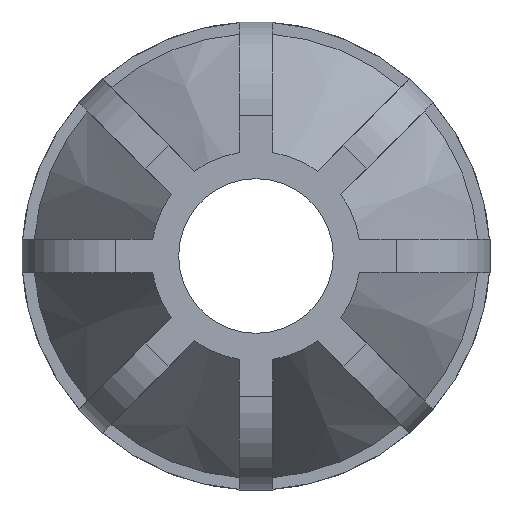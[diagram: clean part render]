
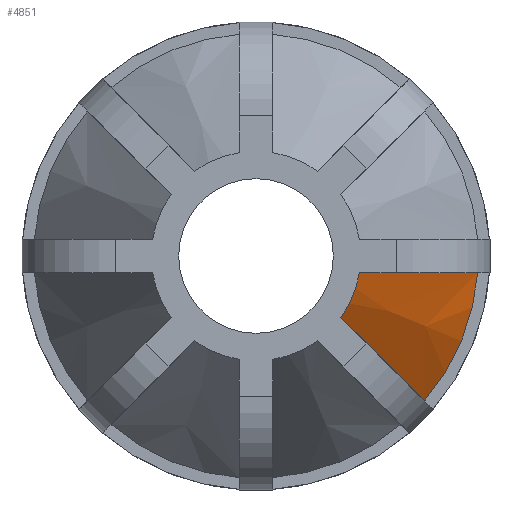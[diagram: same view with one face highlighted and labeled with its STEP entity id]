
A CAD part, left-side view. The second image highlights one B-rep face of the part: STEP entity #4851.
In plain terms, the highlighted conical face has half-angle 31.683 degrees and reference radius 24.854 mm.
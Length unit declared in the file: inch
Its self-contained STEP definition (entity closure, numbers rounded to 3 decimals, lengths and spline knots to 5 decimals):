
#25=CONICAL_SURFACE('',#5240,0.97851,0.553);
#99=(
BOUNDED_CURVE()
B_SPLINE_CURVE(2,(#7908,#7909,#7910),.UNSPECIFIED.,.F.,.F.)
B_SPLINE_CURVE_WITH_KNOTS((3,3),(0.,3.40532),.UNSPECIFIED.)
CURVE()
GEOMETRIC_REPRESENTATION_ITEM()
RATIONAL_B_SPLINE_CURVE((1.,1.072,1.))
REPRESENTATION_ITEM('')
);
#108=(
BOUNDED_CURVE()
B_SPLINE_CURVE(2,(#8088,#8089,#8090),.UNSPECIFIED.,.F.,.F.)
B_SPLINE_CURVE_WITH_KNOTS((3,3),(0.,3.40532),.UNSPECIFIED.)
CURVE()
GEOMETRIC_REPRESENTATION_ITEM()
RATIONAL_B_SPLINE_CURVE((1.,1.072,1.))
REPRESENTATION_ITEM('')
);
#463=FACE_OUTER_BOUND('',#709,.T.);
#709=EDGE_LOOP('',(#3805,#3806,#3807,#3808));
#1693=CIRCLE('',#5236,0.62702);
#1697=CIRCLE('',#5241,1.33);
#2070=VERTEX_POINT('',#7905);
#2071=VERTEX_POINT('',#7907);
#2121=VERTEX_POINT('',#8075);
#2125=VERTEX_POINT('',#8086);
#2658=EDGE_CURVE('',#2071,#2070,#99,.T.);
#2736=EDGE_CURVE('',#2121,#2071,#1693,.T.);
#2742=EDGE_CURVE('',#2125,#2070,#1697,.T.);
#2743=EDGE_CURVE('',#2125,#2121,#108,.T.);
#3805=ORIENTED_EDGE('',*,*,#2658,.T.);
#3806=ORIENTED_EDGE('',*,*,#2742,.F.);
#3807=ORIENTED_EDGE('',*,*,#2743,.T.);
#3808=ORIENTED_EDGE('',*,*,#2736,.T.);
#4851=ADVANCED_FACE('',(#463),#25,.T.);
#5236=AXIS2_PLACEMENT_3D('',#8076,#6233,#6234);
#5240=AXIS2_PLACEMENT_3D('',#8085,#6243,#6244);
#5241=AXIS2_PLACEMENT_3D('',#8087,#6245,#6246);
#6233=DIRECTION('center_axis',(1.,0.,0.));
#6234=DIRECTION('ref_axis',(0.,0.,-1.));
#6243=DIRECTION('center_axis',(1.,0.,0.));
#6244=DIRECTION('ref_axis',(0.,1.,0.));
#6245=DIRECTION('center_axis',(1.,0.,0.));
#6246=DIRECTION('ref_axis',(0.,0.,-1.));
#7905=CARTESIAN_POINT('',(-3.115,-1.00798,-0.86769));
#7907=CARTESIAN_POINT('',(-4.254,-0.50793,-0.36764));
#7908=CARTESIAN_POINT('Ctrl Pts',(-4.254,-0.50793,-0.36764));
#7909=CARTESIAN_POINT('Ctrl Pts',(-3.89152,-0.66814,
-0.52785));
#7910=CARTESIAN_POINT('Ctrl Pts',(-3.115,-1.00798,-0.86769));
#8075=CARTESIAN_POINT('',(-4.254,-0.61912,-0.0992));
#8076=CARTESIAN_POINT('Origin',(-4.254,0.,0.));
#8085=CARTESIAN_POINT('Origin',(-3.6845,0.,0.));
#8086=CARTESIAN_POINT('',(-3.115,-1.3263,-0.0992));
#8087=CARTESIAN_POINT('Origin',(-3.115,0.,0.));
#8088=CARTESIAN_POINT('Ctrl Pts',(-3.115,-1.3263,-0.0992));
#8089=CARTESIAN_POINT('Ctrl Pts',(-3.89152,-0.8457,
-0.0992));
#8090=CARTESIAN_POINT('Ctrl Pts',(-4.254,-0.61912,-0.0992));
